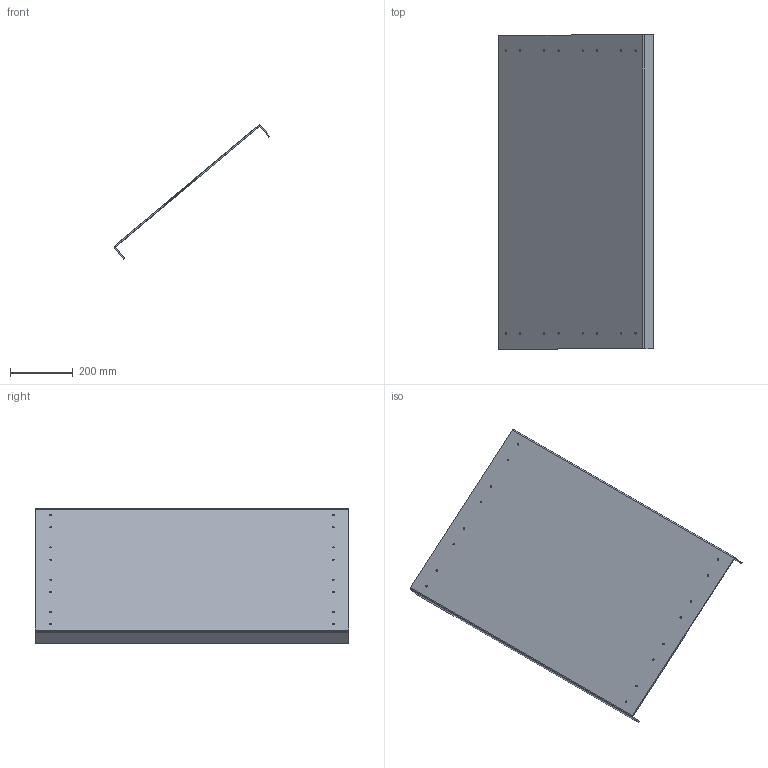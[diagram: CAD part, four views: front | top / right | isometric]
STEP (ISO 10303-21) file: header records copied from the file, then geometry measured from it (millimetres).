
FILE_DESCRIPTION(('HOOPS Exchange Step'),'2;1');
FILE_NAME('/private/var/mobile/Containers/Data/Application/E4481369-A8C6-45C6-A958-B1853E49479D/tmp/export/temp_export','2021-04-12T21:30:19+00:00',('mobile'),('Shapr3D Limited'),'HOOPS Exchange 2020.2','Shapr3D','Authorized');
FILE_SCHEMA( ('AP203_CONFIGURATION_CONTROLLED_3D_DESIGN_OF_MECHANICAL_PARTS_AND_ASSEMBLIES_MIM_LF') );
Length unit declared in the file: millimetre
Products named in the file (2): 0; /private/var/mobile/Containers/Data/Application/E4481369-A8C6-45C6-A958-B1853E49479D/tmp/33CFCD8B-FEFB-422B-A08D-1B2CF04EAC98.tmp
Assembly tree (1 placements, depth 2):
  /private/var/mobile/Containers/Data/Application/E4481369-A8C6-45C6-A958-B1853E49479D/tmp/33CFCD8B-FEFB-422B-A08D-1B2CF04EAC98.tmp
    0
Bounding box: 495.85 x 1000 x 427.07 mm (x, y, z)
Volume: 2788336.5 mm3; surface area: 1408786.3 mm2
Topology: 1 solids, 1 shells, 36 faces, 134 edges, 100 vertices
Faces by surface type: cylinder 26, plane 10
Full cylindrical faces by diameter (mm): 5.2 x16
Entity records: 1629 total; most frequent: DIRECTION 296, CARTESIAN_POINT 273, ORIENTED_EDGE 268, EDGE_CURVE 134, AXIS2_PLACEMENT_3D 123, VERTEX_POINT 100, CIRCLE 84, EDGE_LOOP 68
